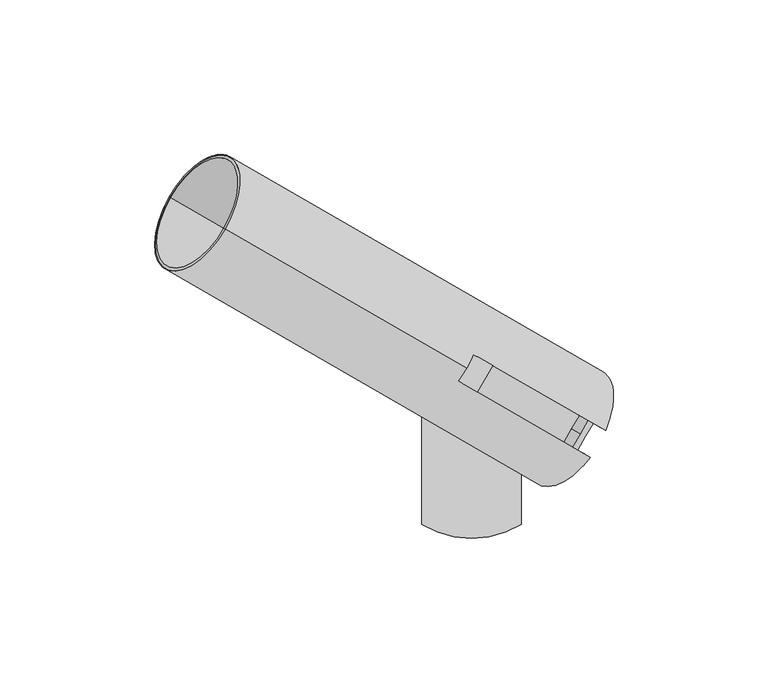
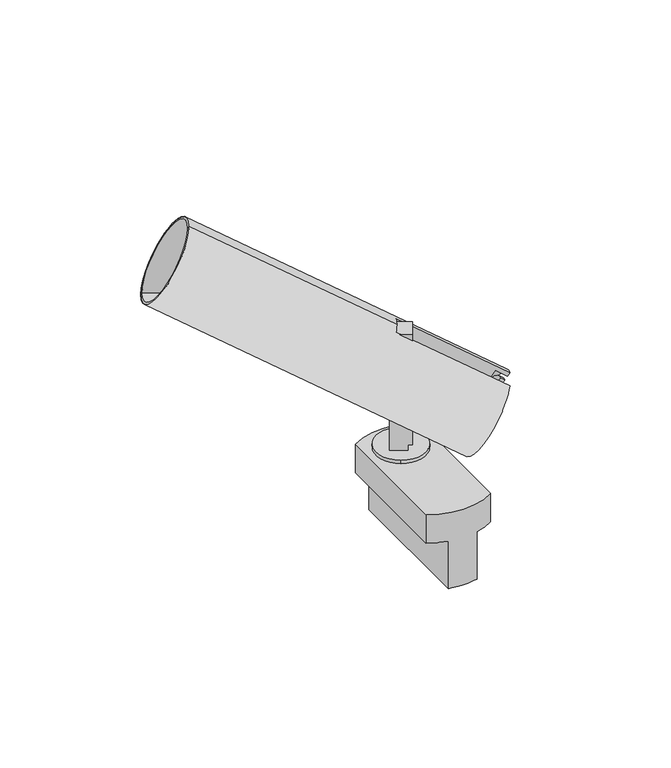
"""IFC4 building model written with IfcOpenShell, lengths in millimetres: light fixture geometry, PIPES T XS : 630lm 7,8W 840 38°."""

from ifc_helpers import new_model, si_unit, point, frame, frame_2d, origin, origin_2d, place, context, project, spatial, polyline, circle_curve, trimmed, segment, composite_curve, outline, extrude, source, transform, mapped, element, save
from ifc_brep_helpers import plane_surface, cylinder_surface, revolved_surface, advanced_brep


def light_fixture_e2dc46ee(model_context):
    return source(origin(), model_context, "Body", "SolidModel", [
        extrude(outline(composite_curve([segment(polyline([(-39.7303383, 0.0), (-39.7303383, 8.0), (-36.7303383, 8.0), (-36.7303383, 10.0), (21.31827, 10.0), (21.31827, 2.0)]), True, "CONTINUOUS"), segment(trimmed(circle_curve(frame_2d((15.691322, 2.0)), 5.626948), [point((21.31827, 2.0))], [point((15.691322, -3.626948))], False, "CARTESIAN"), True, "CONTINUOUS"), segment(polyline([(15.691322, -3.626948), (9.8735653, -3.626948)]), True, "CONTINUOUS"), segment(trimmed(circle_curve(frame_2d((17.7182036, 2.2388678)), 9.7952104), [point((9.8735653, -3.626948))], [point((8.1822916, 0.0))], False, "CARTESIAN"), True, "CONTINUOUS"), segment(polyline([(8.1822916, 0.0), (-39.7303383, 0.0)]), True, "CONTINUOUS")], self_intersect=False)), frame((-6.830127, -1.830127, 56.5303383), z_axis=(0.4999999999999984, 0.8660254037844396, 0.0), x_axis=(0.0, 0.0, 1.0)), (0.0, 0.0, 1.0), 10.0),
        extrude(outline(composite_curve([segment(trimmed(circle_curve(origin_2d(), 12.5), [point((-6.25, -10.8253175))], [point((6.25, 10.8253175))], False, "CARTESIAN"), True, "CONTINUOUS"), segment(trimmed(circle_curve(origin_2d(), 12.5), [point((6.25, 10.8253175))], [point((-6.25, -10.8253175))], False, "CARTESIAN"), True, "CONTINUOUS")], self_intersect=False)), frame((0.0, 0.0, 15.0), z_axis=(0.0, 0.0, 1.0), x_axis=(1.0, 0.0, 0.0)), (0.0, 0.0, 1.0), 1.8),
        advanced_brep(
        [(-7.1153658, 15.2862846, -25.0), (7.1153658, 15.2862846, -25.0), (7.1153658, -53.3498174, -25.0), (-7.1153658, -53.3498174, -25.0), (-16.1153658, -49.7317664, 15.0), (16.1153658, -49.7317664, 15.0), (16.1153658, 11.6682336, 15.0), (-16.1153658, 11.6682336, 15.0), (-16.1153658, 11.6682336, 0.0), (-16.1153658, -49.7317664, 0.0), (16.1153658, 11.6682336, 0.0), (7.1153658, 15.2862846, 0.0), (-7.1153658, 15.2862846, 0.0), (16.1153658, -49.7317664, 0.0), (-7.1153658, -53.3498174, 0.0), (7.1153658, -53.3498174, 0.0)],
        [
            (0, 1, circle_curve(frame((0.0, -15.4162786, -25.0), z_axis=(0.0, 0.0, -1.0), x_axis=(1.0, 0.0, 0.0)), 31.5162786)),
            (1, 2),
            (2, 3, circle_curve(frame((0.0, -22.6472542, -25.0), z_axis=(0.0, 0.0, -1.0), x_axis=(1.0, 0.0, 0.0)), 31.5162786)),
            (3, 0),
            (4, 5, circle_curve(frame((0.0, -22.6472542, 15.0), z_axis=(0.0, 0.0, 1.0), x_axis=(1.0, 0.0, 0.0)), 31.5162786)),
            (5, 6),
            (6, 7, circle_curve(frame((0.0, -15.4162786, 15.0), z_axis=(0.0, 0.0, 1.0), x_axis=(1.0, 0.0, 0.0)), 31.5162786)),
            (7, 4),
            (7, 8),
            (8, 9),
            (9, 4),
            (6, 10),
            (10, 11, circle_curve(frame((0.0, -15.4162786, 0.0), z_axis=(0.0, 0.0, 1.0), x_axis=(1.0, 0.0, 0.0)), 31.5162786)),
            (11, 1),
            (0, 12),
            (12, 8, circle_curve(frame((0.0, -15.4162786, 0.0), z_axis=(0.0, 0.0, 1.0), x_axis=(1.0, 0.0, 0.0)), 31.5162786)),
            (5, 13),
            (13, 10),
            (9, 14, circle_curve(frame((0.0, -22.6472542, 0.0), z_axis=(0.0, 0.0, 1.0), x_axis=(1.0, 0.0, 0.0)), 31.5162786)),
            (14, 3),
            (2, 15),
            (15, 13, circle_curve(frame((0.0, -22.6472542, 0.0), z_axis=(0.0, 0.0, 1.0), x_axis=(1.0, 0.0, 0.0)), 31.5162786)),
            (12, 14),
            (15, 11),
        ],
        [
            plane_surface(frame((-16.1153658, 11.6883244, -25.0), z_axis=(0.0, 0.0, -1.0), x_axis=(0.0, -1.0, 0.0))),
            plane_surface(frame((-16.1153658, 11.6883244, 15.0), z_axis=(0.0, 0.0, 1.0), x_axis=(0.0, 1.0, 0.0))),
            plane_surface(frame((-16.1153658, -49.7317664, 15.0), z_axis=(-1.0, 0.0, 0.0), x_axis=(0.0, 0.0, -1.0))),
            cylinder_surface(frame((0.0, -15.4162786, -25.0), z_axis=(0.0, 0.0, 1.0), x_axis=(1.0, 0.0, 0.0)), 31.5162786),
            plane_surface(frame((16.1153658, 11.6682336, 15.0), z_axis=(1.0, 0.0, 0.0), x_axis=(0.0, 0.0, -1.0))),
            cylinder_surface(frame((0.0, -22.6472542, -25.0), z_axis=(0.0, 0.0, 1.0), x_axis=(1.0, 0.0, 0.0)), 31.5162786),
            plane_surface(frame((-7.1153658, -58.6979838, 0.0), z_axis=(0.0, 0.0, -1.0), x_axis=(-1.0, 0.0, 0.0))),
            plane_surface(frame((-7.1153658, 21.3020162, 0.0), z_axis=(-1.0, 0.0, 0.0), x_axis=(0.0, 0.0, -1.0))),
            plane_surface(frame((7.1153658, 11.6883244, 0.0), z_axis=(0.0, 0.0, -1.0), x_axis=(0.0, 1.0, 0.0))),
            plane_surface(frame((7.1153658, -58.6979838, 0.0), z_axis=(1.0, 0.0, 0.0), x_axis=(0.0, 0.0, -1.0))),
        ],
        [
            (0, [[1, 2, 3, 4]]),
            (1, [[5, 6, 7, 8]]),
            (2, [[9, 10, 11, -8]]),
            (3, [[12, 13, 14, -1, 15, 16, -9, -7]]),
            (4, [[17, 18, -12, -6]]),
            (5, [[-11, 19, 20, -3, 21, 22, -17, -5]]),
            (6, [[-19, -10, -16, 23]]),
            (7, [[-15, -4, -20, -23]]),
            (8, [[-13, -18, -22, 24]]),
            (9, [[-21, -2, -14, -24]]),
        ],
    ),
        advanced_brep(
        [(-8.4150635, -0.9150635, 71.169873), (-4.3464424, -3.264083, 79.3071153), (38.4035576, -27.945807, 50.8071153), (37.5090507, -27.4293632, 49.0181014), (33.0090507, -24.831287, 52.0181014), (29.8349365, -22.9987113, 45.669873), (-3.4150635, 7.7451905, 71.169873), (34.8349365, -14.3384573, 45.669873), (38.0090507, -16.171033, 52.0181014), (42.5090507, -18.7691092, 49.0181014), (43.4035576, -19.285553, 50.8071153), (0.6535576, 5.396171, 79.3071153), (32.3349365, -18.6685843, 45.669873), (-1.5849365, 0.9150635, 79.830127), (-79.5849365, 45.9483845, 131.830127), (22.97853, -13.2666605, 14.9570601), (-97.77147, 56.4483845, 95.4570601), (23.8445554, -13.7666605, 16.6891109), (19.3445554, -11.1685843, 19.6891109), (27.5717968, -15.9185843, 36.1435935), (-79.1333302, 45.6876495, 95.7333395), (-74.8032032, 43.1876495, 104.3935935), (-70.4730762, 40.6876495, 113.0538476)],
        [
            (0, 1),
            (1, 2),
            (2, 3),
            (3, 4),
            (4, 5),
            (5, 0),
            (6, 7),
            (7, 8),
            (8, 9),
            (9, 10),
            (10, 11),
            (11, 6),
            (5, 12),
            (12, 7),
            (6, 0),
            (11, 13, circle_curve(frame((-10.6782032, 6.1650635, 61.6435935), z_axis=(0.7500000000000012, -0.4330127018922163, -0.5000000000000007), x_axis=(0.43301270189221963, -0.25000000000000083, 0.8660254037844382)), 21.0)),
            (13, 1, circle_curve(frame((-10.6782032, 6.1650635, 61.6435935), z_axis=(0.7500000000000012, -0.4330127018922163, -0.5000000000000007), x_axis=(0.43301270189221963, -0.25000000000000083, 0.8660254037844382)), 21.0)),
            (14, 13),
            (10, 15, circle_curve(frame((32.0717968, -18.5166605, 33.1435935), z_axis=(-0.7500000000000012, 0.4330127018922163, 0.5000000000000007), x_axis=(0.43301270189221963, -0.25000000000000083, 0.8660254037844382)), 21.0)),
            (15, 16),
            (16, 14, circle_curve(frame((-88.6782032, 51.1983845, 113.6435935), z_axis=(0.7500000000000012, -0.4330127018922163, -0.5000000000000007), x_axis=(0.43301270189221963, -0.25000000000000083, 0.8660254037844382)), 21.0)),
            (15, 2, circle_curve(frame((32.0717968, -18.5166605, 33.1435935), z_axis=(-0.7500000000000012, 0.4330127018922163, 0.5000000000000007), x_axis=(0.43301270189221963, -0.25000000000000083, 0.8660254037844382)), 21.0)),
            (14, 16, circle_curve(frame((-88.6782032, 51.1983845, 113.6435935), z_axis=(0.7500000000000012, -0.4330127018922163, -0.5000000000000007), x_axis=(0.43301270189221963, -0.25000000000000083, 0.8660254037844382)), 21.0)),
            (9, 17, circle_curve(frame((32.0717968, -18.5166605, 33.1435935), z_axis=(-0.7500000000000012, 0.4330127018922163, 0.5000000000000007), x_axis=(0.43301270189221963, -0.25000000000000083, 0.8660254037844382)), 19.0)),
            (17, 15),
            (17, 3, circle_curve(frame((32.0717968, -18.5166605, 33.1435935), z_axis=(-0.7500000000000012, 0.4330127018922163, 0.5000000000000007), x_axis=(0.43301270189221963, -0.25000000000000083, 0.8660254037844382)), 19.0)),
            (8, 18, circle_curve(frame((27.5717968, -15.9185843, 36.1435935), z_axis=(-0.7500000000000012, 0.4330127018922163, 0.5000000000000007), x_axis=(0.43301270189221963, -0.25000000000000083, 0.8660254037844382)), 19.0)),
            (18, 17),
            (18, 4, circle_curve(frame((27.5717968, -15.9185843, 36.1435935), z_axis=(-0.7500000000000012, 0.4330127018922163, 0.5000000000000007), x_axis=(0.43301270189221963, -0.25000000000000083, 0.8660254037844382)), 19.0)),
            (12, 19),
            (19, 18),
            (20, 21),
            (21, 22),
            (22, 20, circle_curve(frame((-74.8032032, 43.1876495, 104.3935935), z_axis=(-0.7500000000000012, 0.4330127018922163, 0.5000000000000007), x_axis=(0.43301270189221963, -0.25000000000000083, 0.8660254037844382)), 10.0)),
            (20, 22, circle_curve(frame((-74.8032032, 43.1876495, 104.3935935), z_axis=(-0.7500000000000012, 0.4330127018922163, 0.5000000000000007), x_axis=(0.43301270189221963, -0.25000000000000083, 0.8660254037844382)), 10.0)),
            (16, 20),
            (22, 14),
        ],
        [
            plane_surface(frame((-8.4150635, -0.9150635, 71.169873), z_axis=(0.49999999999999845, 0.8660254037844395, 0.0), x_axis=(-0.7500000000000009, 0.433012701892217, 0.5000000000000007))),
            plane_surface(frame((-3.4150635, 7.7451905, 71.169873), z_axis=(-0.49999999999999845, -0.8660254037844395, 0.0), x_axis=(0.7500000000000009, -0.433012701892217, -0.5000000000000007))),
            plane_surface(frame((-3.4150635, 7.7451905, 71.169873), z_axis=(0.4330127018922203, -0.2499999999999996, 0.8660254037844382), x_axis=(-0.4999999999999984, -0.8660254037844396, 0.0))),
            plane_surface(frame((5.2451905, 2.7451905, 88.4903811), z_axis=(0.7500000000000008, -0.43301270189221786, -0.5000000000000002), x_axis=(-0.4999999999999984, -0.8660254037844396, 0.0))),
            cylinder_surface(frame((38.4110825, -22.1766488, 28.9174031), z_axis=(0.7500000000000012, -0.4330127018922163, -0.5000000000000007), x_axis=(0.43301270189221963, -0.25000000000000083, 0.8660254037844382)), 21.0),
            plane_surface(frame((32.0717968, -18.5166605, 33.1435935), z_axis=(0.7500000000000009, -0.433012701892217, -0.5000000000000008), x_axis=(0.43301270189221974, -0.2500000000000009, 0.8660254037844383))),
            revolved_surface(polyline([(40.29903816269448, -23.266660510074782, 49.59807622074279), (35.79903810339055, -20.668584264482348, 52.598076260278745)]), (38.4110825, -22.1766488, 28.9174031), (0.7500000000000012, -0.4330127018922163, -0.5000000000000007)),
            plane_surface(frame((27.5717968, -15.9185843, 36.1435935), z_axis=(0.7500000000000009, -0.433012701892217, -0.5000000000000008), x_axis=(0.43301270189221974, -0.2500000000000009, 0.8660254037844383))),
            plane_surface(frame((-74.8032032, 43.1876495, 104.3935935), z_axis=(-0.7500000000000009, 0.433012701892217, 0.5000000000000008), x_axis=(0.43301270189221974, -0.2500000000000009, 0.8660254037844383))),
            revolved_surface(polyline([(-70.4730762, 40.6876495, 113.0538476), (-79.5849365, 45.9483845, 131.830127)]), (38.4110825, -22.1766488, 28.9174031), (0.7500000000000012, -0.4330127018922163, -0.5000000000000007)),
        ],
        [
            (0, [[1, 2, 3, 4, 5, 6]]),
            (1, [[7, 8, 9, 10, 11, 12]]),
            (2, [[-6, 13, 14, -7, 15]]),
            (3, [[-12, 16, 17, -1, -15]]),
            (4, [[18, -16, -11, 19, 20, 21]]),
            (4, [[22, -2, -17, -18, 23, -20]]),
            (5, [[-19, -10, 24, 25]]),
            (5, [[26, -3, -22, -25]]),
            (6, [[-24, -9, 27, 28]]),
            (6, [[29, -4, -26, -28]]),
            (7, [[-27, -8, -14, 30, 31]]),
            (7, [[-30, -13, -5, -29, -31]]),
            (8, [[32, 33, 34]]),
            (8, [[-32, 35, -33]]),
            (9, [[36, -34, 37, -21]]),
            (9, [[-37, -35, -36, -23]]),
        ],
    ),
        advanced_brep(
        [(32.8349365, -24.7307621, 43.669873), (35.1045405, -26.0411186, 48.209081), (36.6045405, -26.907144, 47.209081), (34.3349365, -25.5967875, 42.669873), (39.3349365, -16.9365335, 42.669873), (41.6045405, -18.24689, 47.209081), (40.1045405, -17.3808646, 48.209081), (37.8349365, -16.0705081, 43.669873), (36.8349365, -21.2666605, 42.669873), (35.3349365, -20.4006351, 43.669873), (30.5717968, -17.6506351, 34.1435935), (23.2133333, -13.4022242, 19.4266667), (24.7133333, -14.2682497, 18.4266667), (32.0717968, -18.5166605, 33.1435935)],
        [
            (0, 1),
            (1, 2),
            (2, 3),
            (3, 0),
            (4, 5),
            (5, 6),
            (6, 7),
            (7, 4),
            (3, 8),
            (8, 4),
            (7, 9),
            (9, 0),
            (10, 9),
            (6, 11, circle_curve(frame((30.5717968, -17.6506351, 34.1435935), z_axis=(-0.7500000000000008, 0.4330127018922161, 0.5000000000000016), x_axis=(0.4330127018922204, -0.2500000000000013, 0.8660254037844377)), 16.9936434)),
            (11, 10),
            (11, 1, circle_curve(frame((30.5717968, -17.6506351, 34.1435935), z_axis=(-0.7500000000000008, 0.4330127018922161, 0.5000000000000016), x_axis=(0.4330127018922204, -0.2500000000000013, 0.8660254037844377)), 16.9936434)),
            (5, 12, circle_curve(frame((32.0717968, -18.5166605, 33.1435935), z_axis=(-0.7500000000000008, 0.4330127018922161, 0.5000000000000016), x_axis=(0.4330127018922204, -0.2500000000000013, 0.8660254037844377)), 16.9936434)),
            (12, 11),
            (12, 2, circle_curve(frame((32.0717968, -18.5166605, 33.1435935), z_axis=(-0.7500000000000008, 0.4330127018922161, 0.5000000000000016), x_axis=(0.4330127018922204, -0.2500000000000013, 0.8660254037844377)), 16.9936434)),
            (8, 13),
            (13, 12),
        ],
        [
            plane_surface(frame((-8.4150635, -0.9150635, 71.169873), z_axis=(0.49999999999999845, 0.8660254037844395, 0.0), x_axis=(-0.7500000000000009, 0.433012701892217, 0.5000000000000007))),
            plane_surface(frame((-3.4150635, 7.7451905, 71.169873), z_axis=(-0.49999999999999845, -0.8660254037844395, 0.0), x_axis=(0.7500000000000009, -0.433012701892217, -0.5000000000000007))),
            plane_surface(frame((-3.4150635, 7.7451905, 71.169873), z_axis=(0.4330127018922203, -0.2499999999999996, 0.8660254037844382), x_axis=(-0.4999999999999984, -0.8660254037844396, 0.0))),
            plane_surface(frame((30.5717968, -17.6506351, 34.1435935), z_axis=(-0.7500000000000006, 0.4330127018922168, 0.5000000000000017), x_axis=(0.4330127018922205, -0.2500000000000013, 0.8660254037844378))),
            cylinder_surface(frame((-66.9639175, 38.6616358, 99.1674031), z_axis=(0.7500000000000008, -0.4330127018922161, -0.5000000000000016), x_axis=(0.4330127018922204, -0.2500000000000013, 0.8660254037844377)), 16.9936434),
            plane_surface(frame((32.0717968, -18.5166605, 33.1435935), z_axis=(0.7500000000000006, -0.4330127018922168, -0.5000000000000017), x_axis=(0.4330127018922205, -0.2500000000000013, 0.8660254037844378))),
        ],
        [
            (0, [[1, 2, 3, 4]]),
            (1, [[5, 6, 7, 8]]),
            (2, [[9, 10, -8, 11, 12, -4]]),
            (3, [[13, -11, -7, 14, 15]]),
            (3, [[16, -1, -12, -13, -15]]),
            (4, [[-14, -6, 17, 18]]),
            (4, [[19, -2, -16, -18]]),
            (5, [[-17, -5, -10, 20, 21]]),
            (5, [[-20, -9, -3, -19, -21]]),
        ],
    ),
        advanced_brep(
        [(-79.6370222, 45.9784562, 96.7259555), (-75.5532032, 43.6206622, 104.8935935), (-71.4693842, 41.2628682, 113.0612316), (-97.267695, 56.1575299, 96.4646101), (-80.0887115, 46.2392391, 130.822577), (-97.77147, 56.4483845, 95.4570601), (-79.5849365, 45.9483845, 131.830127), (-79.1333302, 45.6876495, 95.7333395), (-70.4730762, 40.6876495, 113.0538476), (-74.8032032, 43.1876495, 104.3935935)],
        [
            (0, 1),
            (1, 2),
            (2, 0, circle_curve(frame((-75.5532032, 43.6206622, 104.8935935), z_axis=(-0.7500000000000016, 0.4330127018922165, 0.5000000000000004), x_axis=(0.43301270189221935, -0.25000000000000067, 0.8660254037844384)), 9.431176)),
            (0, 2, circle_curve(frame((-75.5532032, 43.6206622, 104.8935935), z_axis=(-0.7500000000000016, 0.4330127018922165, 0.5000000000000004), x_axis=(0.43301270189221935, -0.25000000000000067, 0.8660254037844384)), 9.431176)),
            (3, 0),
            (2, 4),
            (4, 3, circle_curve(frame((-88.6782032, 51.1983845, 113.6435935), z_axis=(-0.7500000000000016, 0.4330127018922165, 0.5000000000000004), x_axis=(0.43301270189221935, -0.25000000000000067, 0.8660254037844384)), 19.8365814)),
            (3, 4, circle_curve(frame((-88.6782032, 51.1983845, 113.6435935), z_axis=(-0.7500000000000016, 0.4330127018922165, 0.5000000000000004), x_axis=(0.43301270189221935, -0.25000000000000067, 0.8660254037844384)), 19.8365814)),
            (5, 3),
            (4, 6),
            (6, 5, circle_curve(frame((-88.6782032, 51.1983845, 113.6435935), z_axis=(-0.7500000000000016, 0.4330127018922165, 0.5000000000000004), x_axis=(0.43301270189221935, -0.25000000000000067, 0.8660254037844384)), 21.0)),
            (5, 6, circle_curve(frame((-88.6782032, 51.1983845, 113.6435935), z_axis=(-0.7500000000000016, 0.4330127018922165, 0.5000000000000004), x_axis=(0.43301270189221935, -0.25000000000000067, 0.8660254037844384)), 21.0)),
            (7, 5),
            (6, 8),
            (8, 7, circle_curve(frame((-74.8032032, 43.1876495, 104.3935935), z_axis=(-0.7500000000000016, 0.4330127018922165, 0.5000000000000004), x_axis=(0.43301270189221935, -0.25000000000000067, 0.8660254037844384)), 10.0)),
            (7, 8, circle_curve(frame((-74.8032032, 43.1876495, 104.3935935), z_axis=(-0.7500000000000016, 0.4330127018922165, 0.5000000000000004), x_axis=(0.43301270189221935, -0.25000000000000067, 0.8660254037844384)), 10.0)),
            (9, 7),
            (8, 9),
        ],
        [
            plane_surface(frame((-75.5532032, 43.6206622, 104.8935935), z_axis=(-0.7500000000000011, 0.43301270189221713, 0.5000000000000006), x_axis=(0.43301270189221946, -0.2500000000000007, 0.8660254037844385))),
            revolved_surface(polyline([(-71.4693842, 41.2628682, 113.0612316), (-80.0887115, 46.2392391, 130.822577)]), (53.4110825, -30.8369028, 18.9174031), (0.7500000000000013, -0.4330127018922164, -0.5000000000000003)),
            plane_surface(frame((-88.6782032, 51.1983845, 113.6435935), z_axis=(-0.7500000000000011, 0.43301270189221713, 0.5000000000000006), x_axis=(0.43301270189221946, -0.2500000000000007, 0.8660254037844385))),
            revolved_surface(polyline([(-79.5849365, 45.9483845, 131.830127), (-70.4730762, 40.6876495, 113.0538476)]), (53.4110825, -30.8369028, 18.9174031), (0.7500000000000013, -0.4330127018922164, -0.5000000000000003)),
            plane_surface(frame((-74.8032032, 43.1876495, 104.3935935), z_axis=(0.7500000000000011, -0.43301270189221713, -0.5000000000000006), x_axis=(0.43301270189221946, -0.2500000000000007, 0.8660254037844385))),
        ],
        [
            (0, [[1, 2, 3]]),
            (0, [[-2, -1, 4]]),
            (1, [[5, -3, 6, 7]]),
            (1, [[-6, -4, -5, 8]]),
            (2, [[9, -7, 10, 11]]),
            (2, [[-10, -8, -9, 12]]),
            (3, [[13, -11, 14, 15]]),
            (3, [[-14, -12, -13, 16]]),
            (4, [[17, -15, 18]]),
            (4, [[-18, -16, -17]]),
        ],
    ),
    ])


if __name__ == "__main__":
    model = new_model("IFC4")
    model_context = context("Model", 3, world=origin())
    ifc_project = project(units=[si_unit("LENGTHUNIT", "METRE", prefix="MILLI")], contexts=[model_context])
    site = spatial("IfcSite", under=ifc_project)
    building = spatial("IfcBuilding", under=site)
    placement = place(None, origin())
    light_fixture_shape = light_fixture_e2dc46ee(model_context)
    element("IfcLightFixture", 1, ObjectType="PIPES T XS : 630lm 7,8W 840 38°", at=placement, inside=building, context=model_context, shape_type="MappedRepresentation", body=[
        mapped(light_fixture_shape, transform((0.0, 0.0, 0.0), x_axis=(1.0, 0.0, 0.0), y_axis=(0.0, 1.0, 0.0), z_axis=(0.0, 0.0, 1.0))),
    ])
    save(model, "model.ifc")
